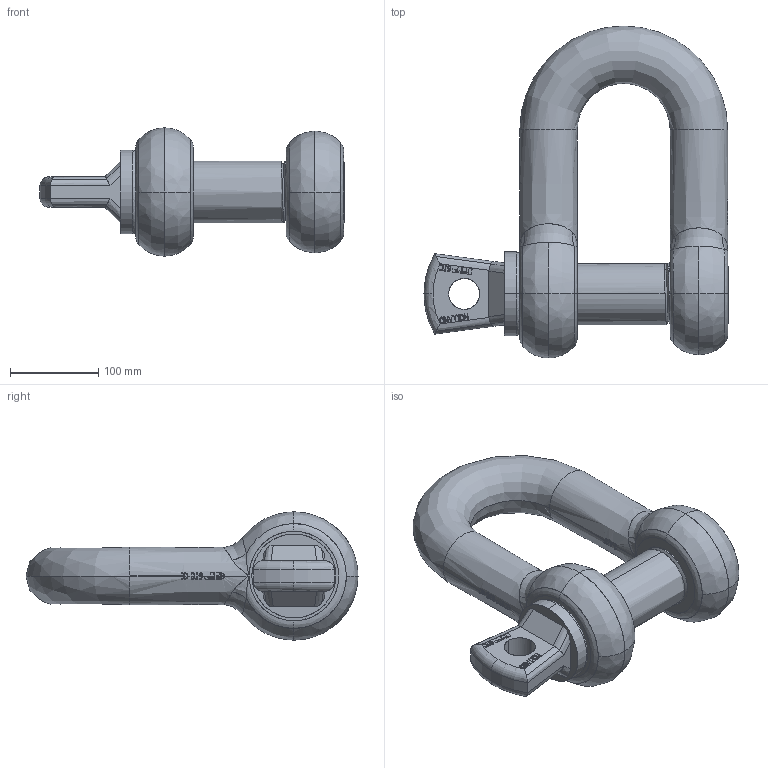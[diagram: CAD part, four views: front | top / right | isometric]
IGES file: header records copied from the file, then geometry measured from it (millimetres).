
Start section: START RECORD GO HERE.
Global section: file name: 55.igs; native system: Solidworks 2009      A Version 5 Release 17 ; preprocessor: Solidworks                 ; author: v.b.; organization: P4; date: 20090807.082030; units: millimetre
Bounding box: 344 x 375.5 x 145 mm (x, y, z)
Surface area: 317437.5 mm2 (no closed solid volume)
Topology: 0 solids, 0 shells, 789 faces, 6717 edges, 6709 vertices
Faces by surface type: bspline 360, plane 279, revolution 150
